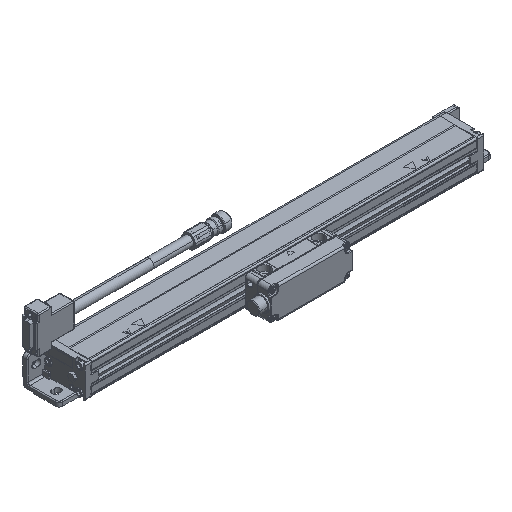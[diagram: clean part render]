
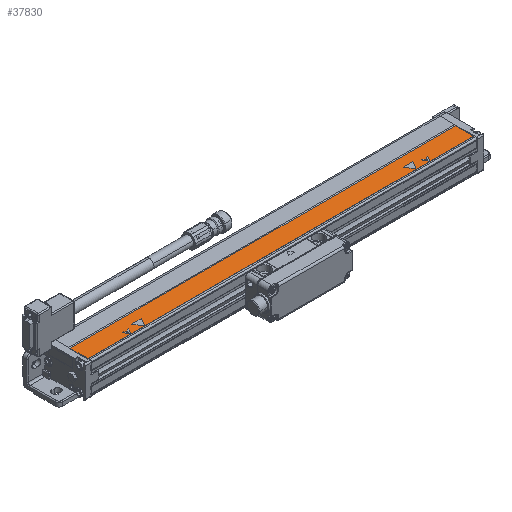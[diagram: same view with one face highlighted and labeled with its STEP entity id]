
A CAD part, isometric view. The second image highlights one B-rep face of the part: STEP entity #37830.
In plain terms, the highlighted planar face has unit normal (0, 0, 1).
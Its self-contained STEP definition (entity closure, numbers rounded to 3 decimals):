
#4180=CARTESIAN_POINT('',(2319.,62.11,34.29));
#4190=VERTEX_POINT('',#4180);
#4360=CARTESIAN_POINT('',(2324.196,71.11,34.29));
#4370=VERTEX_POINT('',#4360);
#4400=CARTESIAN_POINT('',(2335.535,90.75,34.29));
#4410=DIRECTION('',(0.5,0.866,0.));
#4420=VECTOR('',#4410,1.);
#4430=LINE('',#4400,#4420);
#4440=EDGE_CURVE('',#4190,#4370,#4430,.T.);
#35510=CARTESIAN_POINT('',(2682.,82.01,34.29));
#35520=VERTEX_POINT('',#35510);
#35570=CARTESIAN_POINT('',(2144.,82.01,34.29));
#35580=DIRECTION('',(1.,0.,0.));
#35590=VECTOR('',#35580,1.);
#35600=LINE('',#35570,#35590);
#35610=CARTESIAN_POINT('',(2256.,82.01,34.29));
#35620=VERTEX_POINT('',#35610);
#35630=EDGE_CURVE('',#35620,#35520,#35600,.T.);
#36100=CARTESIAN_POINT('',(2144.,62.01,34.29));
#36110=DIRECTION('',(-0.,0.,1.));
#36120=DIRECTION('',(0.,-1.,0.));
#36130=AXIS2_PLACEMENT_3D('',#36100,#36110,#36120);
#36140=PLANE('',#36130);
#36150=CARTESIAN_POINT('',(657.,71.11,34.29));
#36160=DIRECTION('',(-1.,0.,0.));
#36170=VECTOR('',#36160,1.);
#36180=LINE('',#36150,#36170);
#36190=CARTESIAN_POINT('',(2624.196,71.11,34.29));
#36200=VERTEX_POINT('',#36190);
#36210=CARTESIAN_POINT('',(2613.804,71.11,34.29));
#36220=VERTEX_POINT('',#36210);
#36230=EDGE_CURVE('',#36200,#36220,#36180,.T.);
#36240=ORIENTED_EDGE('',*,*,#36230,.F.);
#36250=CARTESIAN_POINT('',(2602.465,90.75,34.29));
#36260=DIRECTION('',(0.5,-0.866,0.));
#36270=VECTOR('',#36260,1.);
#36280=LINE('',#36250,#36270);
#36290=CARTESIAN_POINT('',(2619.,62.11,34.29));
#36300=VERTEX_POINT('',#36290);
#36310=EDGE_CURVE('',#36220,#36300,#36280,.T.);
#36320=ORIENTED_EDGE('',*,*,#36310,.F.);
#36330=CARTESIAN_POINT('',(2635.535,90.75,34.29));
#36340=DIRECTION('',(0.5,0.866,0.));
#36350=VECTOR('',#36340,1.);
#36360=LINE('',#36330,#36350);
#36370=EDGE_CURVE('',#36300,#36200,#36360,.T.);
#36380=ORIENTED_EDGE('',*,*,#36370,.F.);
#36390=EDGE_LOOP('',(#36380,#36320,#36240));
#36400=FACE_BOUND('',#36390,.T.);
#36410=CARTESIAN_POINT('',(2650.535,90.75,34.29));
#36420=DIRECTION('',(0.5,0.866,0.));
#36430=VECTOR('',#36420,1.);
#36440=LINE('',#36410,#36430);
#36450=CARTESIAN_POINT('',(2634.,62.11,34.29));
#36460=VERTEX_POINT('',#36450);
#36470=CARTESIAN_POINT('',(2637.464,68.11,34.29));
#36480=VERTEX_POINT('',#36470);
#36490=EDGE_CURVE('',#36460,#36480,#36440,.T.);
#36500=ORIENTED_EDGE('',*,*,#36490,.F.);
#36510=CARTESIAN_POINT('',(2877.,68.11,34.29));
#36520=DIRECTION('',(-1.,0.,0.));
#36530=VECTOR('',#36520,1.);
#36540=LINE('',#36510,#36530);
#36550=CARTESIAN_POINT('',(2635.732,68.11,34.29));
#36560=VERTEX_POINT('',#36550);
#36570=EDGE_CURVE('',#36480,#36560,#36540,.T.);
#36580=ORIENTED_EDGE('',*,*,#36570,.F.);
#36590=CARTESIAN_POINT('',(2648.803,90.75,34.29));
#36600=DIRECTION('',(-0.5,-0.866,-0.));
#36610=VECTOR('',#36600,1.);
#36620=LINE('',#36590,#36610);
#36630=CARTESIAN_POINT('',(2634.,65.11,34.29));
#36640=VERTEX_POINT('',#36630);
#36650=EDGE_CURVE('',#36560,#36640,#36620,.T.);
#36660=ORIENTED_EDGE('',*,*,#36650,.F.);
#36670=CARTESIAN_POINT('',(2619.197,90.75,34.29));
#36680=DIRECTION('',(-0.5,0.866,0.));
#36690=VECTOR('',#36680,1.);
#36700=LINE('',#36670,#36690);
#36710=CARTESIAN_POINT('',(2632.268,68.11,34.29));
#36720=VERTEX_POINT('',#36710);
#36730=EDGE_CURVE('',#36640,#36720,#36700,.T.);
#36740=ORIENTED_EDGE('',*,*,#36730,.F.);
#36750=CARTESIAN_POINT('',(2877.,68.11,34.29));
#36760=DIRECTION('',(-1.,0.,0.));
#36770=VECTOR('',#36760,1.);
#36780=LINE('',#36750,#36770);
#36790=CARTESIAN_POINT('',(2630.536,68.11,34.29));
#36800=VERTEX_POINT('',#36790);
#36810=EDGE_CURVE('',#36720,#36800,#36780,.T.);
#36820=ORIENTED_EDGE('',*,*,#36810,.F.);
#36830=CARTESIAN_POINT('',(2617.465,90.75,34.29));
#36840=DIRECTION('',(0.5,-0.866,0.));
#36850=VECTOR('',#36840,1.);
#36860=LINE('',#36830,#36850);
#36870=EDGE_CURVE('',#36800,#36460,#36860,.T.);
#36880=ORIENTED_EDGE('',*,*,#36870,.F.);
#36890=EDGE_LOOP('',(#36880,#36820,#36740,#36660,#36580,#36500));
#36900=FACE_BOUND('',#36890,.T.);
#36910=CARTESIAN_POINT('',(2144.,62.01,34.29));
#36920=DIRECTION('',(1.,0.,0.));
#36930=VECTOR('',#36920,1.);
#36940=LINE('',#36910,#36930);
#36950=CARTESIAN_POINT('',(2256.,62.01,34.29));
#36960=VERTEX_POINT('',#36950);
#36970=CARTESIAN_POINT('',(2682.,62.01,34.29));
#36980=VERTEX_POINT('',#36970);
#36990=EDGE_CURVE('',#36960,#36980,#36940,.T.);
#37000=ORIENTED_EDGE('',*,*,#36990,.T.);
#37010=CARTESIAN_POINT('',(2256.,90.75,34.29));
#37020=DIRECTION('',(0.,-1.,0.));
#37030=VECTOR('',#37020,1.);
#37040=LINE('',#37010,#37030);
#37050=EDGE_CURVE('',#35620,#36960,#37040,.T.);
#37060=ORIENTED_EDGE('',*,*,#37050,.T.);
#37070=ORIENTED_EDGE('',*,*,#35630,.F.);
#37080=CARTESIAN_POINT('',(2682.,90.75,34.29));
#37090=DIRECTION('',(0.,1.,0.));
#37100=VECTOR('',#37090,1.);
#37110=LINE('',#37080,#37100);
#37120=EDGE_CURVE('',#36980,#35520,#37110,.T.);
#37130=ORIENTED_EDGE('',*,*,#37120,.T.);
#37140=EDGE_LOOP('',(#37130,#37070,#37060,#37000));
#37150=FACE_OUTER_BOUND('',#37140,.T.);
#37160=CARTESIAN_POINT('',(2320.535,90.75,34.29));
#37170=DIRECTION('',(0.5,0.866,0.));
#37180=VECTOR('',#37170,1.);
#37190=LINE('',#37160,#37180);
#37200=CARTESIAN_POINT('',(2304.,62.11,34.29));
#37210=VERTEX_POINT('',#37200);
#37220=CARTESIAN_POINT('',(2307.464,68.11,34.29));
#37230=VERTEX_POINT('',#37220);
#37240=EDGE_CURVE('',#37210,#37230,#37190,.T.);
#37250=ORIENTED_EDGE('',*,*,#37240,.F.);
#37260=CARTESIAN_POINT('',(2907.,68.11,34.29));
#37270=DIRECTION('',(-1.,0.,-0.));
#37280=VECTOR('',#37270,1.);
#37290=LINE('',#37260,#37280);
#37300=CARTESIAN_POINT('',(2305.732,68.11,34.29));
#37310=VERTEX_POINT('',#37300);
#37320=EDGE_CURVE('',#37230,#37310,#37290,.T.);
#37330=ORIENTED_EDGE('',*,*,#37320,.F.);
#37340=CARTESIAN_POINT('',(2318.803,90.75,34.29));
#37350=DIRECTION('',(-0.5,-0.866,-0.));
#37360=VECTOR('',#37350,1.);
#37370=LINE('',#37340,#37360);
#37380=CARTESIAN_POINT('',(2304.,65.11,34.29));
#37390=VERTEX_POINT('',#37380);
#37400=EDGE_CURVE('',#37310,#37390,#37370,.T.);
#37410=ORIENTED_EDGE('',*,*,#37400,.F.);
#37420=CARTESIAN_POINT('',(2289.197,90.75,34.29));
#37430=DIRECTION('',(-0.5,0.866,0.));
#37440=VECTOR('',#37430,1.);
#37450=LINE('',#37420,#37440);
#37460=CARTESIAN_POINT('',(2302.268,68.11,34.29));
#37470=VERTEX_POINT('',#37460);
#37480=EDGE_CURVE('',#37390,#37470,#37450,.T.);
#37490=ORIENTED_EDGE('',*,*,#37480,.F.);
#37500=CARTESIAN_POINT('',(2907.,68.11,34.29));
#37510=DIRECTION('',(-1.,0.,-0.));
#37520=VECTOR('',#37510,1.);
#37530=LINE('',#37500,#37520);
#37540=CARTESIAN_POINT('',(2300.536,68.11,34.29));
#37550=VERTEX_POINT('',#37540);
#37560=EDGE_CURVE('',#37470,#37550,#37530,.T.);
#37570=ORIENTED_EDGE('',*,*,#37560,.F.);
#37580=CARTESIAN_POINT('',(2287.465,90.75,34.29));
#37590=DIRECTION('',(0.5,-0.866,0.));
#37600=VECTOR('',#37590,1.);
#37610=LINE('',#37580,#37600);
#37620=EDGE_CURVE('',#37550,#37210,#37610,.T.);
#37630=ORIENTED_EDGE('',*,*,#37620,.F.);
#37640=EDGE_LOOP('',(#37630,#37570,#37490,#37410,#37330,#37250));
#37650=FACE_BOUND('',#37640,.T.);
#37660=CARTESIAN_POINT('',(2302.465,90.75,34.29));
#37670=DIRECTION('',(0.5,-0.866,0.));
#37680=VECTOR('',#37670,1.);
#37690=LINE('',#37660,#37680);
#37700=CARTESIAN_POINT('',(2313.804,71.11,34.29));
#37710=VERTEX_POINT('',#37700);
#37720=EDGE_CURVE('',#37710,#4190,#37690,.T.);
#37730=ORIENTED_EDGE('',*,*,#37720,.F.);
#37740=ORIENTED_EDGE('',*,*,#4440,.F.);
#37750=CARTESIAN_POINT('',(2857.,71.11,34.29));
#37760=DIRECTION('',(-1.,0.,0.));
#37770=VECTOR('',#37760,1.);
#37780=LINE('',#37750,#37770);
#37790=EDGE_CURVE('',#4370,#37710,#37780,.T.);
#37800=ORIENTED_EDGE('',*,*,#37790,.F.);
#37810=EDGE_LOOP('',(#37800,#37740,#37730));
#37820=FACE_BOUND('',#37810,.T.);
#37830=ADVANCED_FACE('',(#36400,#36900,#37150,#37650,#37820),#36140,.T.)
;
